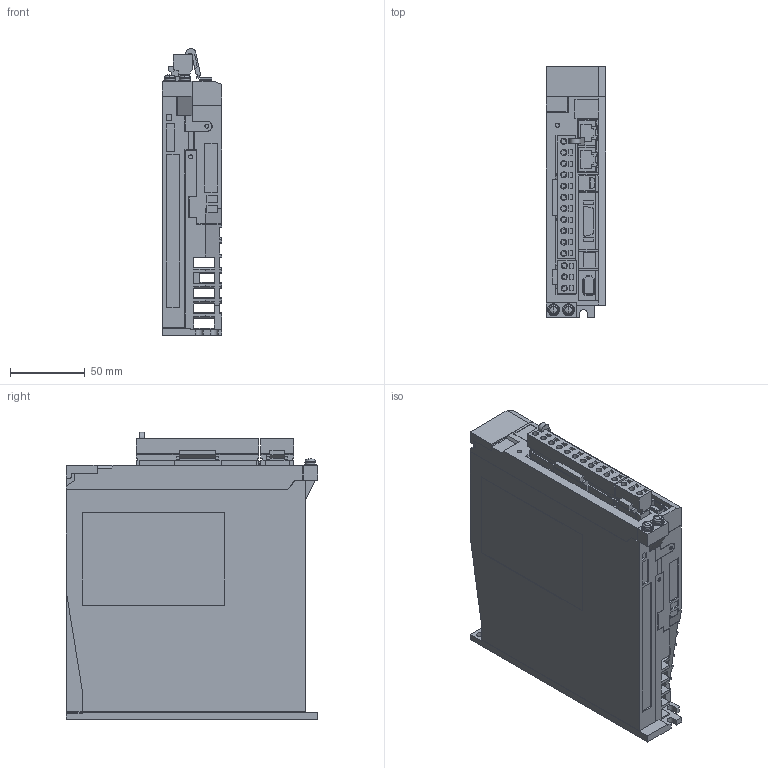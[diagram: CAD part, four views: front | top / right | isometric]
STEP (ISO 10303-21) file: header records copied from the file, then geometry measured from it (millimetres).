
FILE_DESCRIPTION((''),'2;1');
FILE_NAME('SGDXS-2R8A40A_ASM_ASM','2022-02-23T',('liubing_shen'),('Yaskawa Electric (Shenyang) Co.,Ltd'),'PRO/ENGINEER BY PARAMETRIC TECHNOLOGY CORPORATION, 2017170','PRO/ENGINEER BY PARAMETRIC TECHNOLOGY CORPORATION, 2017170','');
FILE_SCHEMA(('AUTOMOTIVE_DESIGN { 1 0 10303 214 1 1 1 1 }'));
Length unit declared in the file: millimetre
Products named in the file (10): SGDXS-2R8A40A_BASE; SGDXS_2R8A40A_COVER_1_4; SGDXS_2R8A40A_CONNECTOR_2_1_2; SGDXS_2R8A40A_CONNECTOR_1_1_2; SGDXS_2R8A40A_PIN_1_2; SGDXS_2R8A40A_CONNECTOR_3_1_2; SGDXS_2R8A40A_COVER_2; SGDXS_2R8A00A_COVER_3; SGDXS-2R8A40A_ASM_8_ASM; SGDXS-2R8A40A_ASM_ASM
Assembly tree (9 placements, depth 3):
  SGDXS-2R8A40A_ASM_ASM
    SGDXS-2R8A40A_ASM_8_ASM
      SGDXS-2R8A40A_BASE
      SGDXS_2R8A40A_COVER_1_4
      SGDXS_2R8A40A_CONNECTOR_2_1_2
      SGDXS_2R8A40A_CONNECTOR_1_1_2
      SGDXS_2R8A40A_PIN_1_2
      SGDXS_2R8A40A_CONNECTOR_3_1_2
      SGDXS_2R8A40A_COVER_2
      SGDXS_2R8A00A_COVER_3
Bounding box: 40.02 x 168 x 192.05 mm (x, y, z)
Volume: 966861.3 mm3; surface area: 144697.5 mm2
Topology: 8 solids, 8 shells, 1734 faces, 4732 edges, 3133 vertices
Faces by surface type: plane 1592, cylinder 128, cone 6, torus 4, sphere 4
Entity records: 69156 total; most frequent: CARTESIAN_POINT 9658, ORIENTED_EDGE 9456, DIRECTION 8596, EDGE_CURVE 4728, VECTOR 4378, LINE 4378, VERTEX_POINT 3133, PRESENTATION_STYLE_ASSIGNMENT 2112
